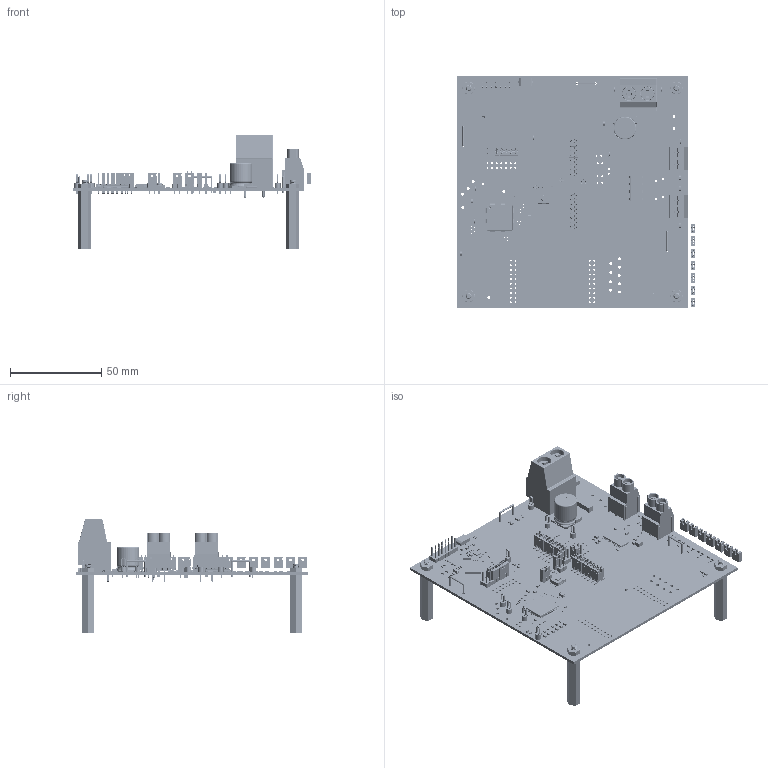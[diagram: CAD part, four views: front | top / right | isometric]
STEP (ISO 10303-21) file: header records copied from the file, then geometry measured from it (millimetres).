
FILE_DESCRIPTION(('Open CASCADE Model'),'2;1');
FILE_NAME('Open CASCADE Shape Model','2022-12-06T14:19:24',('Author'),( 'Open CASCADE'),'Open CASCADE STEP processor 7.5','Open CASCADE 7.5' ,'Unknown');
FILE_SCHEMA(('AUTOMOTIVE_DESIGN { 1 0 10303 214 1 1 1 1 }'));
Length unit declared in the file: millimetre
Products named in the file (509): PCB; Board; Open CASCADE STEP translator 7.5 1.1.1; J28; 6180205584; Cylinder; 6180205824; Sphere; 6180206224; TP36; Keystone_5010; Keystone_multipurpose_wire; Keystone5005_red; D12; 6180212624; Extruded; 6180213824; 6180213664; D11; 6180205504; D10; SH-J31; 60900213421; 60900213421_1; 60900213421_2; SH-J30; J26; 6180223584; 6180204224; J25; 6180214464; SH-J29; SH-J28; SH-J27; SH-J26; SH-J25; SH-J24; SH-J23; F1; 6180206384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
Assembly tree (923 placements, depth 5):
  PCB
    Board
      Open CASCADE STEP translator 7.5 1.1.1
    J28
      6180205584  x2
        Cylinder
      6180205824  x2
        Sphere
      6180206224
        Cylinder
    TP36
      Keystone_5010
        Keystone_multipurpose_wire
        Keystone5005_red
    D12
      6180212624
        Extruded
      6180213824  x2
        Extruded
      6180213664
        Extruded
    D11
      6180213824  x2
        Extruded
      6180213664
        Extruded
      6180205504
        Extruded
    D10
      6180213824  x2
        Extruded
      6180213664
        Extruded
      6180205504
        Extruded
    SH-J31
      60900213421
        60900213421_1
        60900213421_2
    SH-J30
      60900213421
        60900213421_1
        60900213421_2
    J26
      6180223584  x2
        Extruded
      6180204224
        Extruded
    J25
      6180223584  x2
        Extruded
      6180214464
        Extruded
    SH-J29
      60900213421
        60900213421_1
        60900213421_2
    SH-J28
      60900213421
        60900213421_1
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Bounding box: 130.71 x 127 x 62.74 mm (x, y, z)
Volume: 46685.5 mm3; surface area: 69464.7 mm2
Topology: 1345 solids, 1345 shells, 25385 faces, 65790 edges, 43913 vertices
Faces by surface type: plane 19098, cylinder 3457, bspline 2463, sphere 250, torus 61, cone 56
Full cylindrical faces by diameter (mm): 0.017 x1, 0.15 x5, 0.191 x1, 0.45 x20, 1.016 x20, 1.02 x40, 1.05 x9, 1.1 x42, 1.15 x3, 1.3 x10, 1.5 x6, 1.6 x29, 3 x1, 3.15 x1, 3.2 x9, 4.701 x1, 7.4 x6, 11.458 x1, 12.5 x2
Entity records: 355526 total; most frequent: CARTESIAN_POINT 69252, ORIENTED_EDGE 50156, DIRECTION 45910, EDGE_CURVE 25078, LINE 19830, VECTOR 19830, VERTEX_POINT 16522, AXIS2_PLACEMENT_3D 13040
